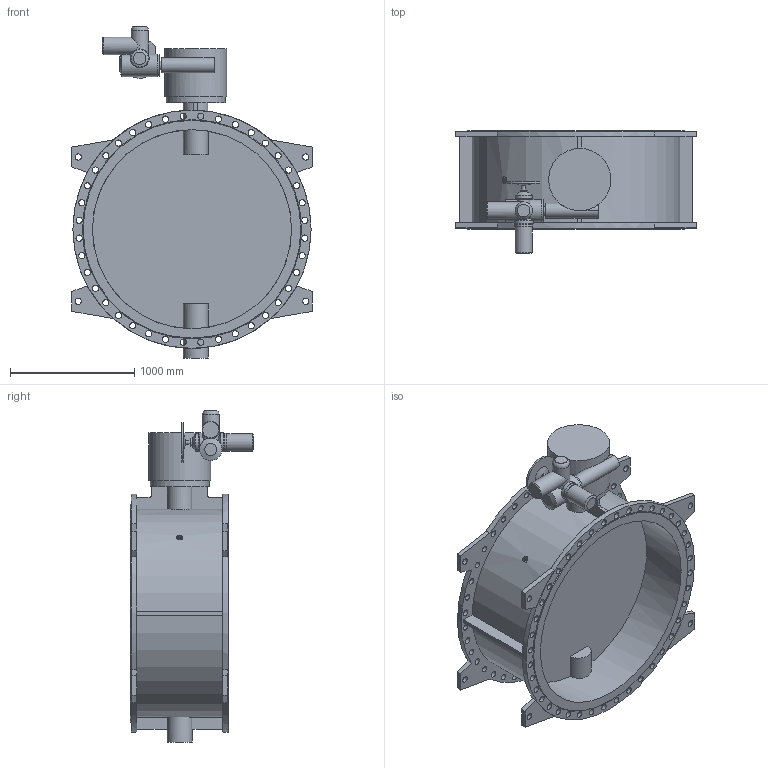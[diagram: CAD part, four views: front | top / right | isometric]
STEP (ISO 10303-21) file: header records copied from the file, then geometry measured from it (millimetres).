
FILE_DESCRIPTION(('STEP AP203'), '1');
FILE_NAME('Çàòâîð 023F.Z DN1600 PN10 + ðåäóêòîð + ÌÒ903.À30', '', ('UNSPECIFIED'), ('UNSPECIFIED'), 'ASCON STEP Converter 1.6', 'ASCON Math Kernel', '');
FILE_SCHEMA(('CONFIG_CONTROL_DESIGN'));
Length unit declared in the file: millimetre
Bounding box: 1930 x 989 x 2668 mm (x, y, z)
Volume: 557245061.2 mm3; surface area: 18475926.4 mm2
Topology: 1 solids, 1 shells, 280 faces, 700 edges, 462 vertices
Faces by surface type: cylinder 154, plane 114, cone 11, torus 1
Full cylindrical faces by diameter (mm): 14 x4, 18 x4, 32 x1, 33 x8, 39 x8, 50 x88, 60 x1, 70 x1, 100 x1, 120 x1, 140 x4, 147 x1, 151 x1, 175 x1, 180 x1, 200 x1, 475 x1, 500 x1, 1600 x2, 1915 x2
Entity records: 12281 total; most frequent: CARTESIAN_POINT 3309, DIRECTION 1399, ORIENTED_EDGE 1108, EDGE_LOOP 639, AXIS2_PLACEMENT_3D 604, EDGE_CURVE 554, VERTEX_POINT 461, FACE_BOUND 364
